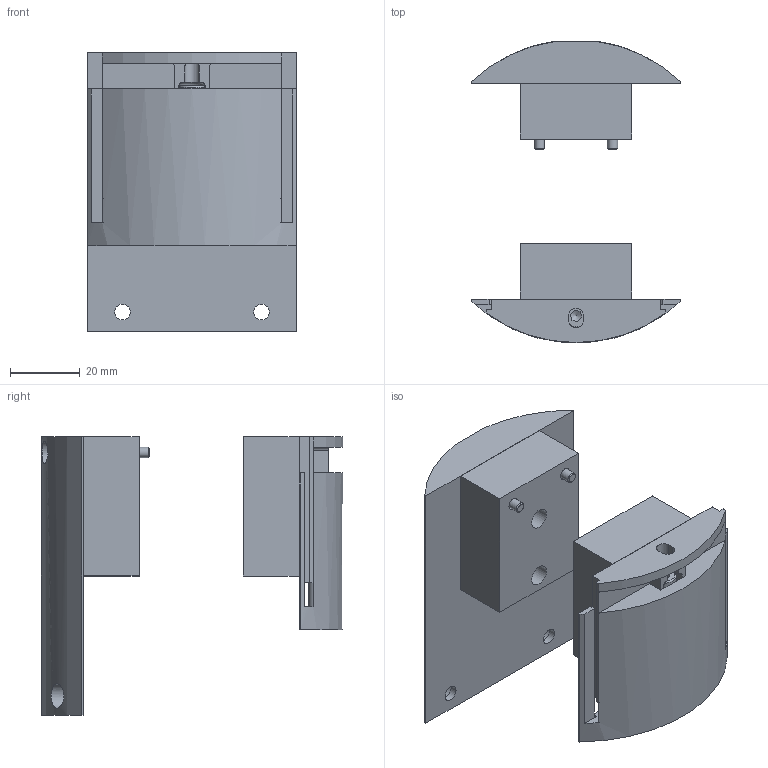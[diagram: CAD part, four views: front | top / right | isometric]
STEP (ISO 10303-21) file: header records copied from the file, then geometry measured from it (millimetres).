
FILE_DESCRIPTION(/* description */ ('Tělo krytu'),/* implementation_level */ '2;1');
FILE_NAME(/* name */ 'SUB-CH87-CMK-M02.stp',/* time_stamp */ '2026-04-14T11:38:54+02:00',/* author */ ('roman'),/* organization */ (''),/* preprocessor_version */ 'ST-DEVELOPER v20',/* originating_system */ 'Autodesk Inventor 2024',/* authorisation */ '');
FILE_SCHEMA (('AUTOMOTIVE_DESIGN { 1 0 10303 214 3 1 1 }'));
Length unit declared in the file: millimetre
Products named in the file (8): SUB-CH87-CMK-M02; CH87-CMK-FXP-M02; CH87-CMK-APT; CH87-CMK-FXP-R01; CH87-CMK-APH-M02; CH87-CMK-APH-R01; DIN 912 - M3 x 10; DIN 912 - M4 x 40
Assembly tree (12 placements, depth 2):
  SUB-CH87-CMK-M02
    CH87-CMK-FXP-M02
    CH87-CMK-APT
    CH87-CMK-FXP-R01
    CH87-CMK-APH-M02
    CH87-CMK-APH-R01
    DIN 912 - M3 x 10  x6
    DIN 912 - M4 x 40
Bounding box: 60.03 x 86.58 x 80 mm (x, y, z)
Volume: 104685 mm3; surface area: 38424.2 mm2
Topology: 12 solids, 12 shells, 242 faces, 595 edges, 390 vertices
Faces by surface type: plane 137, cylinder 59, cone 24, torus 22
Full cylindrical faces by diameter (mm): 2.459 x4, 3 x6, 3.242 x1, 3.5 x6, 4 x1, 4.5 x2, 5.5 x6, 6 x6, 6.5 x2, 7 x3
Entity records: 5491 total; most frequent: CARTESIAN_POINT 1046, DIRECTION 909, ORIENTED_EDGE 826, EDGE_CURVE 413, AXIS2_PLACEMENT_3D 331, VERTEX_POINT 270, LINE 247, VECTOR 247
